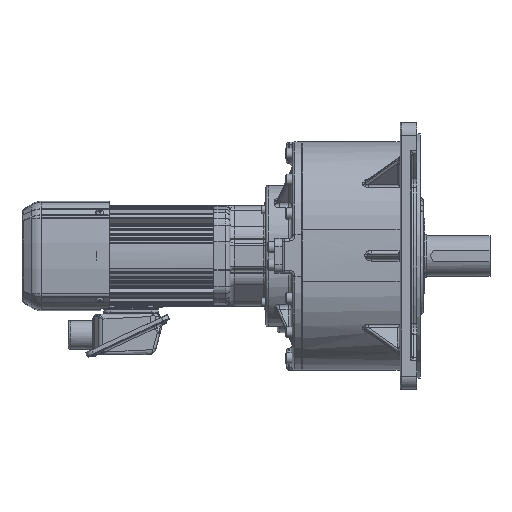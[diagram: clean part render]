
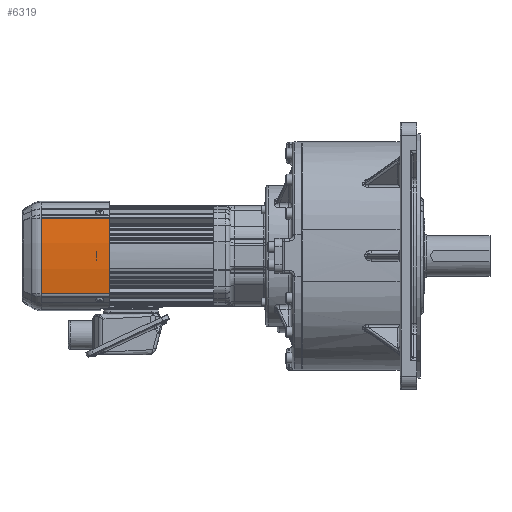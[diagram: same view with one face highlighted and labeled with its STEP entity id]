
A CAD part, top view. The second image highlights one B-rep face of the part: STEP entity #6319.
In plain terms, the highlighted cylindrical face has radius 300.6 mm (diameter 601.2 mm), a partial arc.
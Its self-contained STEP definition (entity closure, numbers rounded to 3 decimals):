
#6319 = ADVANCED_FACE( '', ( #13715 ), #13716, .T. );
#13715 = FACE_OUTER_BOUND( '', #34704, .T. );
#13716 = CYLINDRICAL_SURFACE( '', #34705, 300.6 );
#34704 = EDGE_LOOP( '', ( #57815, #57816, #57817, #57818 ) );
#34705 = AXIS2_PLACEMENT_3D( '', #57819, #57820, #57821 );
#57815 = ORIENTED_EDGE( '', *, *, #65892, .T. );
#57816 = ORIENTED_EDGE( '', *, *, #64157, .T. );
#57817 = ORIENTED_EDGE( '', *, *, #70840, .F. );
#57818 = ORIENTED_EDGE( '', *, *, #69857, .F. );
#57819 = CARTESIAN_POINT( '', ( -31.376, 135., -244.462 ) );
#57820 = DIRECTION( '', ( 1., 0., 0. ) );
#57821 = DIRECTION( '', ( 0., 0., -1. ) );
#64157 = EDGE_CURVE( '', #73046, #73048, #73050, .F. );
#65892 = EDGE_CURVE( '', #75992, #73046, #75993, .T. );
#69857 = EDGE_CURVE( '', #75992, #81706, #81707, .T. );
#70840 = EDGE_CURVE( '', #81706, #73048, #82871, .T. );
#73046 = VERTEX_POINT( '', #86318 );
#73048 = VERTEX_POINT( '', #86320 );
#73050 = CIRCLE( '', #86322, 300.6 );
#75992 = VERTEX_POINT( '', #91614 );
#75993 = LINE( '', #91615, #91616 );
#81706 = VERTEX_POINT( '', #103374 );
#81707 = CIRCLE( '', #103375, 300.6 );
#82871 = LINE( '', #105538, #105539 );
#86318 = CARTESIAN_POINT( '', ( -111.881, 179.935, 52.761 ) );
#86320 = CARTESIAN_POINT( '', ( -111.881, 90.065, 52.761 ) );
#86322 = AXIS2_PLACEMENT_3D( '', #108521, #108522, #108523 );
#91614 = CARTESIAN_POINT( '', ( -31.376, 179.935, 52.761 ) );
#91615 = CARTESIAN_POINT( '', ( -31.376, 179.935, 52.761 ) );
#91616 = VECTOR( '', #111096, 1000. );
#103374 = CARTESIAN_POINT( '', ( -31.376, 90.065, 52.761 ) );
#103375 = AXIS2_PLACEMENT_3D( '', #116427, #116428, #116429 );
#105538 = CARTESIAN_POINT( '', ( -31.376, 90.065, 52.761 ) );
#105539 = VECTOR( '', #117727, 1000. );
#108521 = CARTESIAN_POINT( '', ( -111.881, 135., -244.462 ) );
#108522 = DIRECTION( '', ( -1., 0., 0. ) );
#108523 = DIRECTION( '', ( 0., 0., -1. ) );
#111096 = DIRECTION( '', ( -1., 0., 0. ) );
#116427 = CARTESIAN_POINT( '', ( -31.376, 135., -244.462 ) );
#116428 = DIRECTION( '', ( 1., 0., 0. ) );
#116429 = DIRECTION( '', ( 0., -1., 0. ) );
#117727 = DIRECTION( '', ( -1., 0., 0. ) );
